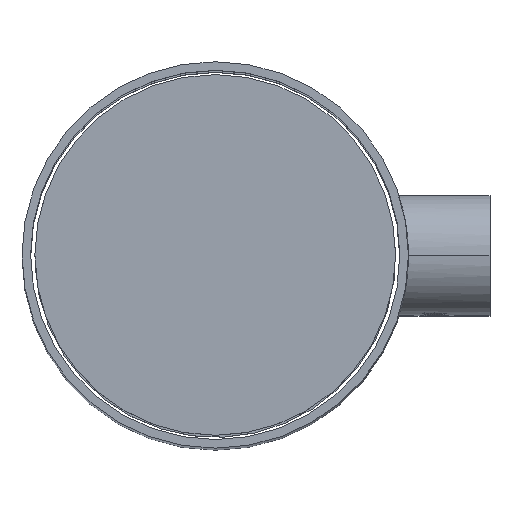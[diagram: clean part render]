
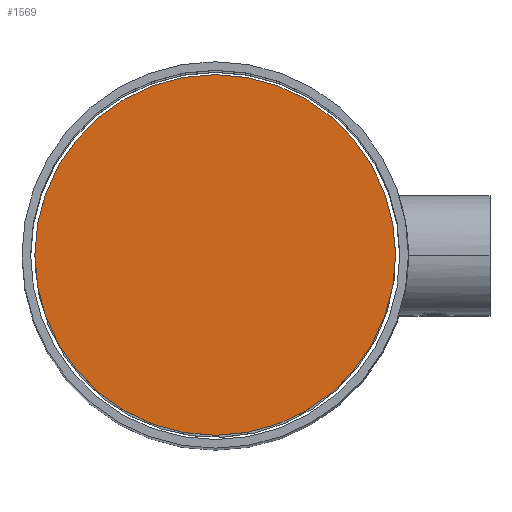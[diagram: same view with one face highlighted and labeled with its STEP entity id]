
A CAD part, top view. The second image highlights one B-rep face of the part: STEP entity #1569.
In plain terms, the highlighted planar face has unit normal (0, 0, 1).
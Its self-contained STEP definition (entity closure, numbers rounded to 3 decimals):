
#79 = ORIENTED_EDGE ( 'NONE', *, *, #1552, .T. ) ;
#104 = AXIS2_PLACEMENT_3D ( 'NONE', #2113, #201, #1867 ) ;
#176 = AXIS2_PLACEMENT_3D ( 'NONE', #1604, #1912, #3000 ) ;
#201 = DIRECTION ( 'NONE',  ( 0., 0., 1. ) ) ;
#210 = CIRCLE ( 'NONE', #691, 21. ) ;
#351 = CIRCLE ( 'NONE', #176, 21. ) ;
#492 = CARTESIAN_POINT ( 'NONE',  ( -21., 0., 69.6 ) ) ;
#691 = AXIS2_PLACEMENT_3D ( 'NONE', #1158, #2576, #1508 ) ;
#901 = ORIENTED_EDGE ( 'NONE', *, *, #2745, .T. ) ;
#953 = FACE_OUTER_BOUND ( 'NONE', #2995, .T. ) ;
#1158 = CARTESIAN_POINT ( 'NONE',  ( 0., 0., 69.6 ) ) ;
#1508 = DIRECTION ( 'NONE',  ( 1., 0., 0. ) ) ;
#1552 = EDGE_CURVE ( 'NONE', #2330, #2441, #210, .T. ) ;
#1569 = ADVANCED_FACE ( 'NONE', ( #953 ), #1811, .T. ) ;
#1604 = CARTESIAN_POINT ( 'NONE',  ( 0., 0., 69.6 ) ) ;
#1811 = PLANE ( 'NONE',  #104 ) ;
#1867 = DIRECTION ( 'NONE',  ( 1., 0., 0. ) ) ;
#1912 = DIRECTION ( 'NONE',  ( 0., 0., 1. ) ) ;
#2113 = CARTESIAN_POINT ( 'NONE',  ( 0., 0., 69.6 ) ) ;
#2330 = VERTEX_POINT ( 'NONE', #3450 ) ;
#2441 = VERTEX_POINT ( 'NONE', #492 ) ;
#2576 = DIRECTION ( 'NONE',  ( 0., 0., 1. ) ) ;
#2745 = EDGE_CURVE ( 'NONE', #2441, #2330, #351, .T. ) ;
#2995 = EDGE_LOOP ( 'NONE', ( #901, #79 ) ) ;
#3000 = DIRECTION ( 'NONE',  ( 1., 0., 0. ) ) ;
#3450 = CARTESIAN_POINT ( 'NONE',  ( 21., 0., 69.6 ) ) ;
